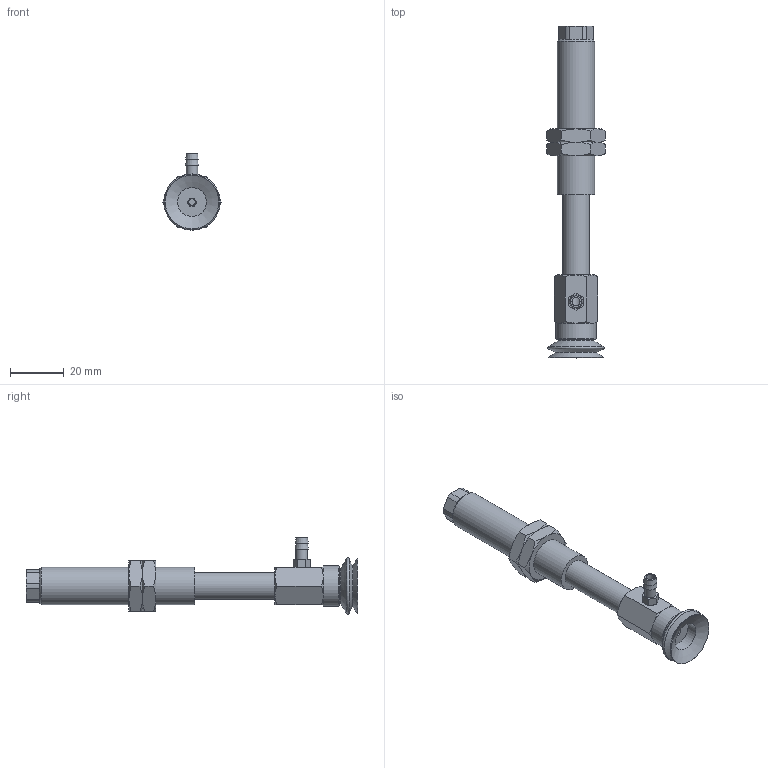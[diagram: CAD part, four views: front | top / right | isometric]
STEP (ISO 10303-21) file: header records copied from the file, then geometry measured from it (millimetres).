
FILE_DESCRIPTION(('STEP AP203'),'1');
FILE_NAME('-T.stp','2025-04-24T01:32:05',(' '),(' '),'Spatial InterOp 3D',' ',' ');
FILE_SCHEMA(('CONFIG_CONTROL_DESIGN'));
Length unit declared in the file: millimetre
Products named in the file (8): BNABPJYS-20-30-※-T; Adapter-20-NAPJ; CONNECTOR_S-20-30; NUT-NAPJ-20-30-s; NAPJTS-20-30-FBODY; NAPJTS-20-30-MBODY; BPJG-20-※; T
Assembly tree (8 placements, depth 2):
  BNABPJYS-20-30-※-T
    Adapter-20-NAPJ
    CONNECTOR_S-20-30
    NUT-NAPJ-20-30-s  x2
    NAPJTS-20-30-FBODY
    NAPJTS-20-30-MBODY
    BPJG-20-※
    T
Bounding box: 21.94 x 124 x 28.5 mm (x, y, z)
Volume: 17916.5 mm3; surface area: 14322.7 mm2
Topology: 8 solids, 8 shells, 161 faces, 345 edges, 212 vertices
Faces by surface type: plane 72, cone 57, cylinder 25, torus 7
Full cylindrical faces by diameter (mm): 2.5 x1, 3 x2, 4.134 x3, 4.3 x1, 4.6 x1, 5 x3, 10 x2, 10.8 x1, 11 x1, 13.188 x2, 14 x1, 15 x1
Entity records: 4128 total; most frequent: CARTESIAN_POINT 937, DIRECTION 592, ORIENTED_EDGE 494, AXIS2_PLACEMENT_3D 250, EDGE_CURVE 247, EDGE_LOOP 206, VERTEX_POINT 177, FACE_OUTER_BOUND 163
